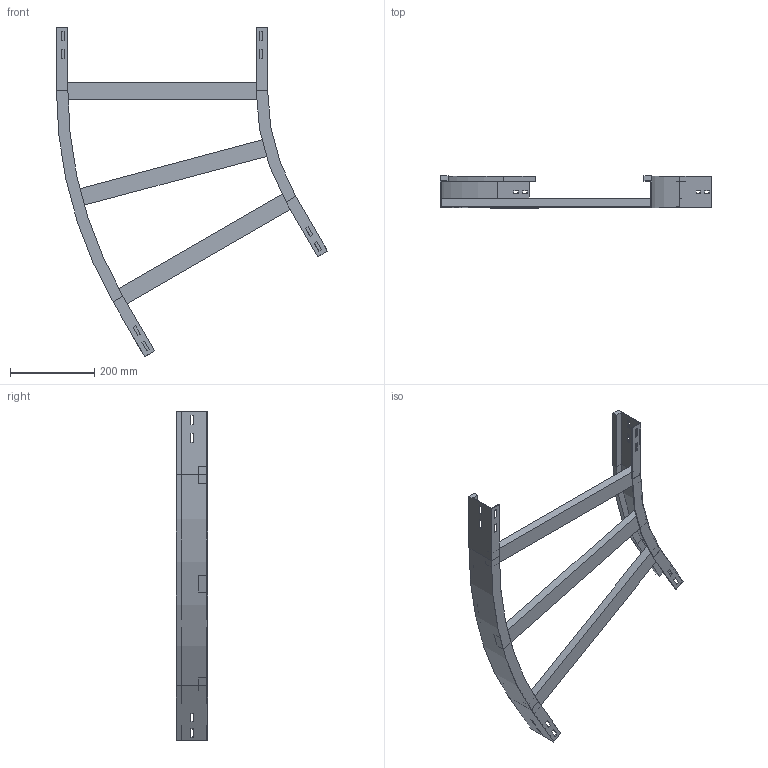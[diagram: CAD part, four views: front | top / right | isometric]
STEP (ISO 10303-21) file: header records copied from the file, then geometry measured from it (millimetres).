
FILE_DESCRIPTION (( 'STEP AP214' ), '1' );
FILE_NAME ('12B5C500.step', '2025-02-21T15:10:09', ( '' ), ( '' ), 'SwSTEP 2.0', 'SolidWorks 2023', '' );
FILE_SCHEMA (( 'AUTOMOTIVE_DESIGN' ));
Length unit declared in the file: millimetre
Products named in the file (4): A2_LONGH.ESTERNO 30°_H75_R500+500; TRAVERSINO_500; 12B5C500; A2_LONGH.INTERNO 30°_H75_R500
Assembly tree (5 placements, depth 2):
  12B5C500
    A2_LONGH.INTERNO 30°_H75_R500
    A2_LONGH.ESTERNO 30°_H75_R500+500
    TRAVERSINO_500  x3
Bounding box: 641.99 x 75 x 779.9 mm (x, y, z)
Volume: 1743428.1 mm3; surface area: 510358 mm2
Topology: 5 solids, 5 shells, 134 faces, 340 edges, 216 vertices
Faces by surface type: plane 126, cylinder 8
Entity records: 3821 total; most frequent: CARTESIAN_POINT 646, ORIENTED_EDGE 632, DIRECTION 592, EDGE_CURVE 316, LINE 300, VECTOR 300, VERTEX_POINT 200, EDGE_LOOP 154
